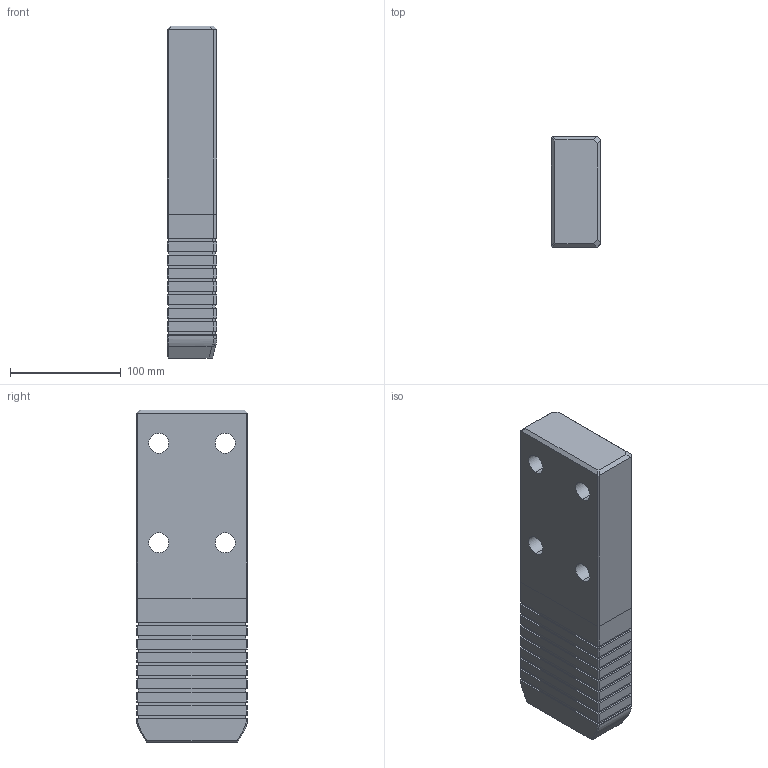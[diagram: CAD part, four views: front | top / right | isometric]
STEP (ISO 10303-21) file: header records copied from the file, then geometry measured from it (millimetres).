
FILE_DESCRIPTION((''),'2;1');
FILE_NAME('','2010-09-22T13:23:27+09:00',('misumi'),(''),'M/STEP i/f 1R2-14','CADmeister v5.1','');
FILE_SCHEMA(('AUTOMOTIVE_DESIGN'));
Length unit declared in the file: millimetre
Products named in the file (1): GWAZ100-300
Bounding box: 45 x 100 x 300 mm (x, y, z)
Volume: 1277598.4 mm3; surface area: 108542.3 mm2
Topology: 1 solids, 1 shells, 200 faces, 523 edges, 342 vertices
Faces by surface type: plane 179, cylinder 13, bspline 6, cone 2
Entity records: 6404 total; most frequent: CARTESIAN_POINT 1406, ORIENTED_EDGE 1042, DIRECTION 921, EDGE_CURVE 521, LINE 479, VECTOR 479, VERTEX_POINT 340, EDGE_LOOP 225
